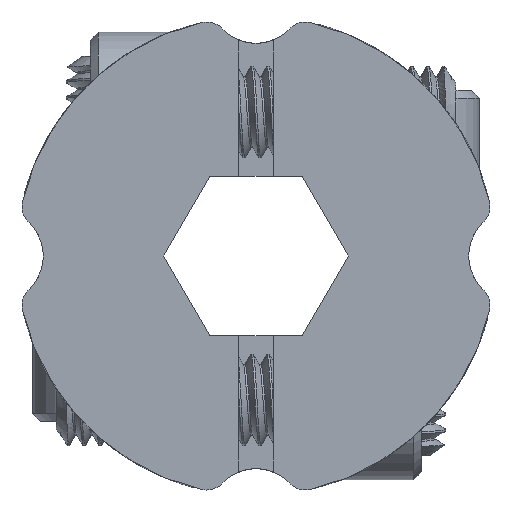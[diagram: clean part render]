
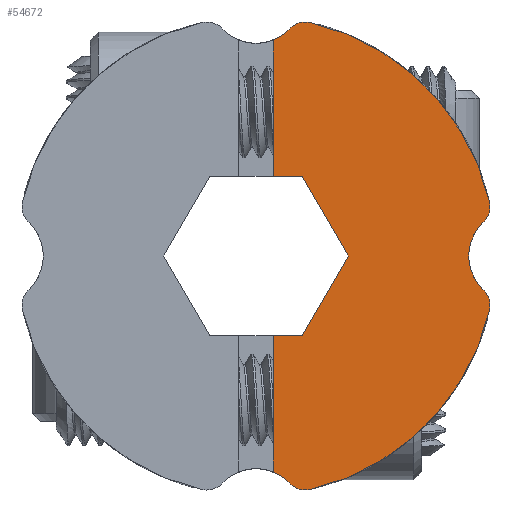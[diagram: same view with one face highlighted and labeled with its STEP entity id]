
A CAD part, front view. The second image highlights one B-rep face of the part: STEP entity #54672.
In plain terms, the highlighted planar face has unit normal (0, -1, 0).
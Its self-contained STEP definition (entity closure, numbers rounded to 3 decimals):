
#154 = CARTESIAN_POINT ( 'NONE',  ( 0.75, -10.5, -9.46 ) ) ;
#204 = CARTESIAN_POINT ( 'NONE',  ( 0.75, -10.5, -3.5 ) ) ;
#232 = CARTESIAN_POINT ( 'NONE',  ( 0., -10.5, -11.314 ) ) ;
#1081 = EDGE_CURVE ( 'NONE', #12930, #46595, #12948, .T. ) ;
#1292 = DIRECTION ( 'NONE',  ( 0., 0., 1. ) ) ;
#1369 = CARTESIAN_POINT ( 'NONE',  ( 4.041, -10.5, 0. ) ) ;
#2713 = CARTESIAN_POINT ( 'NONE',  ( 2.021, -10.5, 3.5 ) ) ;
#3152 = DIRECTION ( 'NONE',  ( 0., 0., 1. ) ) ;
#3197 = CARTESIAN_POINT ( 'NONE',  ( 2.021, -10.5, -3.5 ) ) ;
#3656 = LINE ( 'NONE', #40724, #20640 ) ;
#4181 = CARTESIAN_POINT ( 'NONE',  ( 2.175, -10.5, -9.248 ) ) ;
#5329 = CIRCLE ( 'NONE', #13958, 1. ) ;
#5451 = ORIENTED_EDGE ( 'NONE', *, *, #25013, .F. ) ;
#5957 = AXIS2_PLACEMENT_3D ( 'NONE', #4181, #22024, #17095 ) ;
#6224 = VERTEX_POINT ( 'NONE', #154 ) ;
#6766 = DIRECTION ( 'NONE',  ( 0., -1., 0. ) ) ;
#8917 = DIRECTION ( 'NONE',  ( 0., -1., 0. ) ) ;
#9234 = VERTEX_POINT ( 'NONE', #19129 ) ;
#9513 = DIRECTION ( 'NONE',  ( 0., 1., 0. ) ) ;
#9584 = VERTEX_POINT ( 'NONE', #3197 ) ;
#10159 = ORIENTED_EDGE ( 'NONE', *, *, #46345, .T. ) ;
#10752 = CIRCLE ( 'NONE', #53559, 10.5 ) ;
#11204 = DIRECTION ( 'NONE',  ( -0.5, 0., 0.866 ) ) ;
#11442 = AXIS2_PLACEMENT_3D ( 'NONE', #29450, #46871, #51231 ) ;
#11654 = VERTEX_POINT ( 'NONE', #204 ) ;
#12137 = EDGE_CURVE ( 'NONE', #6224, #11654, #3656, .T. ) ;
#12294 = DIRECTION ( 'NONE',  ( 1., 0., 0. ) ) ;
#12397 = ORIENTED_EDGE ( 'NONE', *, *, #25853, .T. ) ;
#12660 = CARTESIAN_POINT ( 'NONE',  ( 9.936, -10.5, 1.45 ) ) ;
#12930 = VERTEX_POINT ( 'NONE', #12660 ) ;
#12948 = CIRCLE ( 'NONE', #28966, 1. ) ;
#13039 = ORIENTED_EDGE ( 'NONE', *, *, #14626, .F. ) ;
#13241 = AXIS2_PLACEMENT_3D ( 'NONE', #45174, #28322, #40642 ) ;
#13374 = VECTOR ( 'NONE', #1292, 1000. ) ;
#13715 = DIRECTION ( 'NONE',  ( 0., 0., 1. ) ) ;
#13958 = AXIS2_PLACEMENT_3D ( 'NONE', #28508, #37046, #49744 ) ;
#13982 = ORIENTED_EDGE ( 'NONE', *, *, #12137, .F. ) ;
#14626 = EDGE_CURVE ( 'NONE', #9584, #55737, #53162, .T. ) ;
#15795 = DIRECTION ( 'NONE',  ( -1., 0., 0. ) ) ;
#15832 = AXIS2_PLACEMENT_3D ( 'NONE', #45274, #6766, #41301 ) ;
#16016 = FACE_OUTER_BOUND ( 'NONE', #19055, .T. ) ;
#16380 = ORIENTED_EDGE ( 'NONE', *, *, #48123, .F. ) ;
#16827 = EDGE_CURVE ( 'NONE', #12930, #33577, #22606, .T. ) ;
#17095 = DIRECTION ( 'NONE',  ( 0., 0., 1. ) ) ;
#17108 = DIRECTION ( 'NONE',  ( 0., 0., -1. ) ) ;
#17314 = DIRECTION ( 'NONE',  ( 0., -1., 0. ) ) ;
#18073 = ORIENTED_EDGE ( 'NONE', *, *, #1081, .T. ) ;
#19055 = EDGE_LOOP ( 'NONE', ( #49711, #21160, #26306, #10159, #32692, #18073, #5451, #12397, #25948, #28011, #35091, #49096, #13039, #16380, #13982 ) ) ;
#19129 = CARTESIAN_POINT ( 'NONE',  ( 1.45, -10.5, 9.936 ) ) ;
#19823 = CARTESIAN_POINT ( 'NONE',  ( 1.45, -10.5, -9.936 ) ) ;
#20199 = CARTESIAN_POINT ( 'NONE',  ( 0.75, -10.5, 9.46 ) ) ;
#20563 = VERTEX_POINT ( 'NONE', #52014 ) ;
#20640 = VECTOR ( 'NONE', #36562, 1000. ) ;
#21160 = ORIENTED_EDGE ( 'NONE', *, *, #53896, .T. ) ;
#21430 = EDGE_CURVE ( 'NONE', #55737, #53678, #23113, .T. ) ;
#21439 = CARTESIAN_POINT ( 'NONE',  ( 2.404, -10.5, -10.221 ) ) ;
#22024 = DIRECTION ( 'NONE',  ( 0., -1., 0. ) ) ;
#22606 = CIRCLE ( 'NONE', #15832, 2. ) ;
#23113 = LINE ( 'NONE', #1369, #42099 ) ;
#23909 = EDGE_CURVE ( 'NONE', #54180, #6224, #54280, .T. ) ;
#25013 = EDGE_CURVE ( 'NONE', #38839, #46595, #35898, .T. ) ;
#25554 = CIRCLE ( 'NONE', #5957, 1. ) ;
#25853 = EDGE_CURVE ( 'NONE', #38839, #9234, #37977, .T. ) ;
#25948 = ORIENTED_EDGE ( 'NONE', *, *, #38780, .F. ) ;
#26306 = ORIENTED_EDGE ( 'NONE', *, *, #45538, .F. ) ;
#26808 = CARTESIAN_POINT ( 'NONE',  ( 0., -10.5, 0. ) ) ;
#28011 = ORIENTED_EDGE ( 'NONE', *, *, #31420, .F. ) ;
#28236 = VERTEX_POINT ( 'NONE', #20199 ) ;
#28322 = DIRECTION ( 'NONE',  ( 0., -1., 0. ) ) ;
#28508 = CARTESIAN_POINT ( 'NONE',  ( 9.248, -10.5, -2.175 ) ) ;
#28966 = AXIS2_PLACEMENT_3D ( 'NONE', #34405, #17314, #38731 ) ;
#29080 = VECTOR ( 'NONE', #12294, 1000. ) ;
#29141 = CARTESIAN_POINT ( 'NONE',  ( 0., -10.5, 0. ) ) ;
#29450 = CARTESIAN_POINT ( 'NONE',  ( 0., -10.5, 0. ) ) ;
#30191 = CARTESIAN_POINT ( 'NONE',  ( 0., -10.5, 11.314 ) ) ;
#31360 = LINE ( 'NONE', #2713, #37450 ) ;
#31420 = EDGE_CURVE ( 'NONE', #50354, #28236, #52058, .T. ) ;
#32692 = ORIENTED_EDGE ( 'NONE', *, *, #16827, .F. ) ;
#33207 = AXIS2_PLACEMENT_3D ( 'NONE', #232, #51782, #43831 ) ;
#33577 = VERTEX_POINT ( 'NONE', #39684 ) ;
#33680 = CARTESIAN_POINT ( 'NONE',  ( 0.75, -10.5, 3.5 ) ) ;
#33762 = CARTESIAN_POINT ( 'NONE',  ( -2.021, -10.5, -3.5 ) ) ;
#34405 = CARTESIAN_POINT ( 'NONE',  ( 9.248, -10.5, 2.175 ) ) ;
#35091 = ORIENTED_EDGE ( 'NONE', *, *, #38454, .F. ) ;
#35553 = VECTOR ( 'NONE', #50315, 1000. ) ;
#35898 = CIRCLE ( 'NONE', #42652, 10.5 ) ;
#36562 = DIRECTION ( 'NONE',  ( 0., 0., 1. ) ) ;
#37046 = DIRECTION ( 'NONE',  ( 0., -1., 0. ) ) ;
#37450 = VECTOR ( 'NONE', #15795, 1000. ) ;
#37977 = CIRCLE ( 'NONE', #13241, 1. ) ;
#38454 = EDGE_CURVE ( 'NONE', #53678, #50354, #31360, .T. ) ;
#38564 = AXIS2_PLACEMENT_3D ( 'NONE', #30191, #8917, #17108 ) ;
#38731 = DIRECTION ( 'NONE',  ( 0., 0., 1. ) ) ;
#38780 = EDGE_CURVE ( 'NONE', #28236, #9234, #38815, .T. ) ;
#38815 = CIRCLE ( 'NONE', #38564, 2. ) ;
#38839 = VERTEX_POINT ( 'NONE', #39092 ) ;
#39092 = CARTESIAN_POINT ( 'NONE',  ( 2.404, -10.5, 10.221 ) ) ;
#39684 = CARTESIAN_POINT ( 'NONE',  ( 9.936, -10.5, -1.45 ) ) ;
#40336 = CARTESIAN_POINT ( 'NONE',  ( 0.75, -10.5, -21.5 ) ) ;
#40642 = DIRECTION ( 'NONE',  ( 0., 0., 1. ) ) ;
#40724 = CARTESIAN_POINT ( 'NONE',  ( 0.75, -10.5, -21.5 ) ) ;
#41301 = DIRECTION ( 'NONE',  ( -1., 0., 0. ) ) ;
#42099 = VECTOR ( 'NONE', #11204, 1000. ) ;
#42585 = DIRECTION ( 'NONE',  ( 0., 1., 0. ) ) ;
#42652 = AXIS2_PLACEMENT_3D ( 'NONE', #29141, #42585, #3152 ) ;
#43571 = VERTEX_POINT ( 'NONE', #21439 ) ;
#43831 = DIRECTION ( 'NONE',  ( 0., 0., 1. ) ) ;
#45174 = CARTESIAN_POINT ( 'NONE',  ( 2.175, -10.5, 9.248 ) ) ;
#45274 = CARTESIAN_POINT ( 'NONE',  ( 11.314, -10.5, 0. ) ) ;
#45538 = EDGE_CURVE ( 'NONE', #20563, #43571, #10752, .T. ) ;
#46121 = CARTESIAN_POINT ( 'NONE',  ( 10.221, -10.5, 2.404 ) ) ;
#46329 = CARTESIAN_POINT ( 'NONE',  ( 2.021, -10.5, -3.5 ) ) ;
#46345 = EDGE_CURVE ( 'NONE', #20563, #33577, #5329, .T. ) ;
#46595 = VERTEX_POINT ( 'NONE', #46121 ) ;
#46871 = DIRECTION ( 'NONE',  ( 0., 1., 0. ) ) ;
#48123 = EDGE_CURVE ( 'NONE', #11654, #9584, #52133, .T. ) ;
#49096 = ORIENTED_EDGE ( 'NONE', *, *, #21430, .F. ) ;
#49711 = ORIENTED_EDGE ( 'NONE', *, *, #23909, .F. ) ;
#49744 = DIRECTION ( 'NONE',  ( 0., 0., 1. ) ) ;
#50315 = DIRECTION ( 'NONE',  ( 0.5, 0., 0.866 ) ) ;
#50354 = VERTEX_POINT ( 'NONE', #33680 ) ;
#50656 = CARTESIAN_POINT ( 'NONE',  ( 2.021, -10.5, 3.5 ) ) ;
#51231 = DIRECTION ( 'NONE',  ( 0., 0., 1. ) ) ;
#51782 = DIRECTION ( 'NONE',  ( 0., -1., 0. ) ) ;
#52014 = CARTESIAN_POINT ( 'NONE',  ( 10.221, -10.5, -2.404 ) ) ;
#52058 = LINE ( 'NONE', #40336, #13374 ) ;
#52133 = LINE ( 'NONE', #33762, #29080 ) ;
#53162 = LINE ( 'NONE', #46329, #35553 ) ;
#53559 = AXIS2_PLACEMENT_3D ( 'NONE', #26808, #9513, #13715 ) ;
#53678 = VERTEX_POINT ( 'NONE', #50656 ) ;
#53896 = EDGE_CURVE ( 'NONE', #54180, #43571, #25554, .T. ) ;
#54180 = VERTEX_POINT ( 'NONE', #19823 ) ;
#54280 = CIRCLE ( 'NONE', #33207, 2. ) ;
#54672 = ADVANCED_FACE ( 'NONE', ( #16016 ), #55586, .F. ) ;
#55521 = CARTESIAN_POINT ( 'NONE',  ( 4.041, -10.5, 0. ) ) ;
#55586 = PLANE ( 'NONE',  #11442 ) ;
#55737 = VERTEX_POINT ( 'NONE', #55521 ) ;
